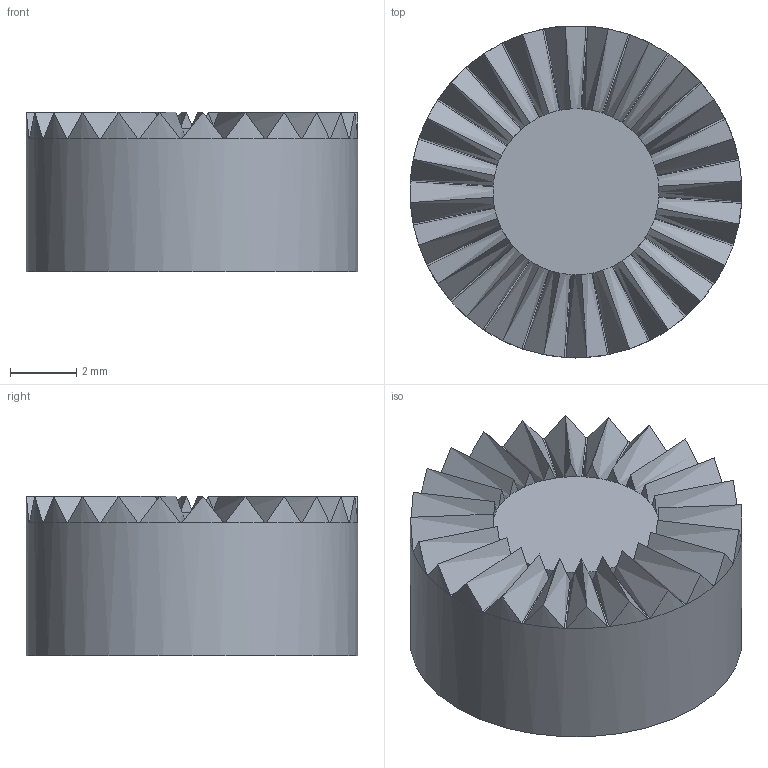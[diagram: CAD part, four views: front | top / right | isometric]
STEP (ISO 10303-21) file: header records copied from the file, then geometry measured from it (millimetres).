
FILE_DESCRIPTION(('Open CASCADE Model'),'2;1');
FILE_NAME('Open CASCADE Shape Model','2026-10-23T00:29:42',('Author'),( 'Open CASCADE'),'Open CASCADE STEP processor 7.9','Open CASCADE 7.9' ,'Unknown');
FILE_SCHEMA(('AUTOMOTIVE_DESIGN { 1 0 10303 214 1 1 1 1 }'));
Length unit declared in the file: millimetre
Products named in the file (1): Open CASCADE STEP translator 7.9 4
Bounding box: 10 x 10 x 4.8 mm (x, y, z)
Volume: 283.8 mm3; surface area: 400.5 mm2
Topology: 1 solids, 1 shells, 148 faces, 342 edges, 197 vertices
Faces by surface type: cylinder 73, bspline 48, plane 27
Full cylindrical faces by diameter (mm): 5 x1, 10 x1
Entity records: 10568 total; most frequent: CARTESIAN_POINT 4807, DIRECTION 698, ORIENTED_EDGE 684, PCURVE 684, DEFINITIONAL_REPRESENTATION 684, B_SPLINE_CURVE_WITH_KNOTS 627, EDGE_CURVE 342, SURFACE_CURVE 340
